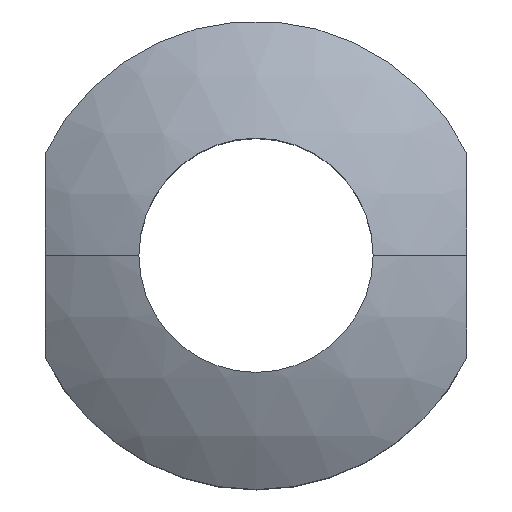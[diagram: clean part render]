
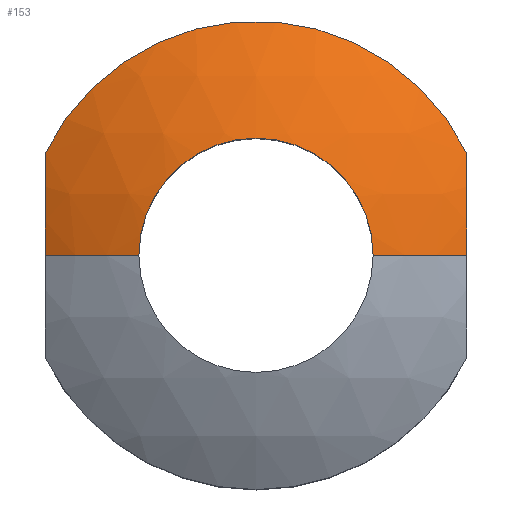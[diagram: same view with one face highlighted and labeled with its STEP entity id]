
A CAD part, top view. The second image highlights one B-rep face of the part: STEP entity #153.
In plain terms, the highlighted spherical face has radius 9 mm.
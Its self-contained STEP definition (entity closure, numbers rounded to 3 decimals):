
#6 = AXIS2_PLACEMENT_3D ( 'NONE', #178, #103, #429 ) ;
#15 = CIRCLE ( 'NONE', #295, 7.794 ) ;
#34 = VERTEX_POINT ( 'NONE', #318 ) ;
#41 = ORIENTED_EDGE ( 'NONE', *, *, #209, .T. ) ;
#59 = VERTEX_POINT ( 'NONE', #392 ) ;
#80 = CIRCLE ( 'NONE', #352, 7.794 ) ;
#86 = ORIENTED_EDGE ( 'NONE', *, *, #170, .F. ) ;
#89 = CARTESIAN_POINT ( 'NONE',  ( 0., 0., 6.646 ) ) ;
#103 = DIRECTION ( 'NONE',  ( 0., 1., 0. ) ) ;
#114 = ORIENTED_EDGE ( 'NONE', *, *, #317, .F. ) ;
#115 = CARTESIAN_POINT ( 'NONE',  ( 4.5, 0., -2. ) ) ;
#119 = DIRECTION ( 'NONE',  ( 0., 1., 0. ) ) ;
#123 = ORIENTED_EDGE ( 'NONE', *, *, #341, .T. ) ;
#150 = CIRCLE ( 'NONE', #185, 5. ) ;
#153 = ADVANCED_FACE ( 'NONE', ( #155 ), #229, .T. ) ;
#155 = FACE_OUTER_BOUND ( 'NONE', #323, .T. ) ;
#163 = DIRECTION ( 'NONE',  ( 0., -1., 0. ) ) ;
#167 = ORIENTED_EDGE ( 'NONE', *, *, #169, .F. ) ;
#169 = EDGE_CURVE ( 'NONE', #205, #232, #223, .T. ) ;
#170 = EDGE_CURVE ( 'NONE', #34, #205, #80, .T. ) ;
#178 = CARTESIAN_POINT ( 'NONE',  ( 0., 0., -2. ) ) ;
#185 = AXIS2_PLACEMENT_3D ( 'NONE', #393, #473, #278 ) ;
#189 = CARTESIAN_POINT ( 'NONE',  ( -4.5, 0., -2. ) ) ;
#195 = DIRECTION ( 'NONE',  ( -1., 0., 0. ) ) ;
#205 = VERTEX_POINT ( 'NONE', #217 ) ;
#209 = EDGE_CURVE ( 'NONE', #34, #59, #150, .T. ) ;
#212 = AXIS2_PLACEMENT_3D ( 'NONE', #443, #264, #419 ) ;
#217 = CARTESIAN_POINT ( 'NONE',  ( 4.5, 0., 5.794 ) ) ;
#223 = CIRCLE ( 'NONE', #212, 9. ) ;
#229 = SPHERICAL_SURFACE ( 'NONE', #462, 9. ) ;
#232 = VERTEX_POINT ( 'NONE', #259 ) ;
#233 = DIRECTION ( 'NONE',  ( 1., 0., 0. ) ) ;
#256 = CARTESIAN_POINT ( 'NONE',  ( -4.5, 0., 5.794 ) ) ;
#259 = CARTESIAN_POINT ( 'NONE',  ( 2.5, 0., 6.646 ) ) ;
#264 = DIRECTION ( 'NONE',  ( 0., -1., 0. ) ) ;
#278 = DIRECTION ( 'NONE',  ( 0., -1., 0. ) ) ;
#284 = VERTEX_POINT ( 'NONE', #256 ) ;
#295 = AXIS2_PLACEMENT_3D ( 'NONE', #189, #305, #409 ) ;
#305 = DIRECTION ( 'NONE',  ( -1., 0., 0. ) ) ;
#306 = DIRECTION ( 'NONE',  ( 0., 0., -1. ) ) ;
#317 = EDGE_CURVE ( 'NONE', #284, #59, #15, .T. ) ;
#318 = CARTESIAN_POINT ( 'NONE',  ( 4.5, 2.179, 5.483 ) ) ;
#320 = AXIS2_PLACEMENT_3D ( 'NONE', #89, #306, #195 ) ;
#323 = EDGE_LOOP ( 'NONE', ( #114, #386, #123, #167, #86, #41 ) ) ;
#341 = EDGE_CURVE ( 'NONE', #421, #232, #480, .T. ) ;
#352 = AXIS2_PLACEMENT_3D ( 'NONE', #115, #233, #163 ) ;
#373 = DIRECTION ( 'NONE',  ( 1., 0., 0. ) ) ;
#386 = ORIENTED_EDGE ( 'NONE', *, *, #460, .T. ) ;
#392 = CARTESIAN_POINT ( 'NONE',  ( -4.5, 2.179, 5.483 ) ) ;
#393 = CARTESIAN_POINT ( 'NONE',  ( 0., 0., 5.483 ) ) ;
#409 = DIRECTION ( 'NONE',  ( 0., 1., 0. ) ) ;
#413 = CARTESIAN_POINT ( 'NONE',  ( 0., 0., -2. ) ) ;
#419 = DIRECTION ( 'NONE',  ( 0., 0., -1. ) ) ;
#421 = VERTEX_POINT ( 'NONE', #477 ) ;
#428 = CIRCLE ( 'NONE', #6, 9. ) ;
#429 = DIRECTION ( 'NONE',  ( -1., 0., 0. ) ) ;
#443 = CARTESIAN_POINT ( 'NONE',  ( 0., 0., -2. ) ) ;
#460 = EDGE_CURVE ( 'NONE', #284, #421, #428, .T. ) ;
#462 = AXIS2_PLACEMENT_3D ( 'NONE', #413, #119, #373 ) ;
#473 = DIRECTION ( 'NONE',  ( 0., 0., 1. ) ) ;
#477 = CARTESIAN_POINT ( 'NONE',  ( -2.5, 0., 6.646 ) ) ;
#480 = CIRCLE ( 'NONE', #320, 2.5 ) ;
